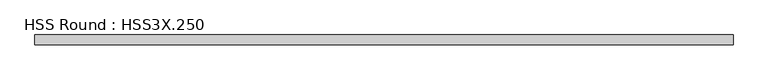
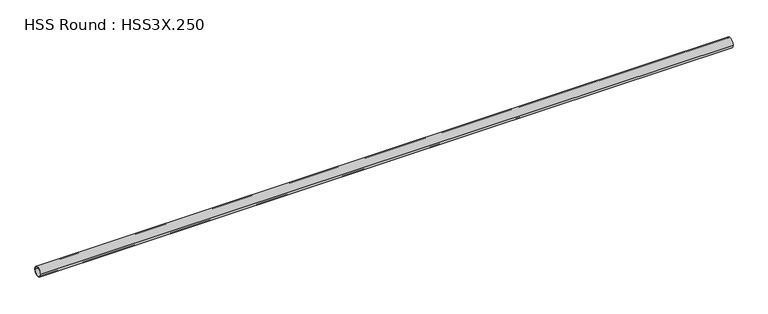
"""IFC4 building model written with IfcOpenShell, lengths in millimetres: member geometry, HSS Round : HSS3X.250."""

from ifc_helpers import new_model, si_unit, point, frame, origin, origin_2d, place, context, project, spatial, circle_curve, trimmed, segment, composite_curve, outline, extrude, source, transform, mapped, element, save


def hss_round_hss3x_250_0c23ba75(model_context):
    return source(origin(), model_context, "Body", "SweptSolid", [
        extrude(outline(composite_curve([segment(trimmed(circle_curve(origin_2d(), 38.1), [point((-38.1, 0.0))], [point((38.1, 0.0))], False, "CARTESIAN"), True, "CONTINUOUS"), segment(trimmed(circle_curve(origin_2d(), 38.1), [point((38.1, 0.0))], [point((-38.1, 0.0))], False, "CARTESIAN"), True, "CONTINUOUS")], self_intersect=False), holes=[composite_curve([segment(trimmed(circle_curve(origin_2d(), 31.75), [point((31.75, 0.0))], [point((-31.75, 0.0))], True, "CARTESIAN"), True, "CONTINUOUS"), segment(trimmed(circle_curve(origin_2d(), 31.75), [point((-31.75, 0.0))], [point((31.75, 0.0))], True, "CARTESIAN"), True, "CONTINUOUS")], self_intersect=False)]), frame((-2656.5430623, 0.0, 0.0), z_axis=(1.0, 0.0, 0.0), x_axis=(0.0, 1.0, 0.0)), (0.0, 0.0, 1.0), 5426.7227404),
    ])


if __name__ == "__main__":
    model = new_model("IFC4")
    model_context = context("Model", 3, world=origin())
    ifc_project = project(units=[si_unit("LENGTHUNIT", "METRE", prefix="MILLI")], contexts=[model_context])
    site = spatial("IfcSite", under=ifc_project)
    building = spatial("IfcBuilding", under=site)
    placement = place(None, origin())
    hss_round_hss3x_250_shape = hss_round_hss3x_250_0c23ba75(model_context)
    element("IfcMember", 1, ObjectType="HSS Round : HSS3X.250", at=placement, inside=building, context=model_context, shape_type="MappedRepresentation", body=[
        mapped(hss_round_hss3x_250_shape, transform((0.0, 0.0, 0.0), x_axis=(1.0, 0.0, 0.0), y_axis=(0.0, 1.0, 0.0), z_axis=(0.0, 0.0, 1.0))),
    ])
    save(model, "model.ifc")
